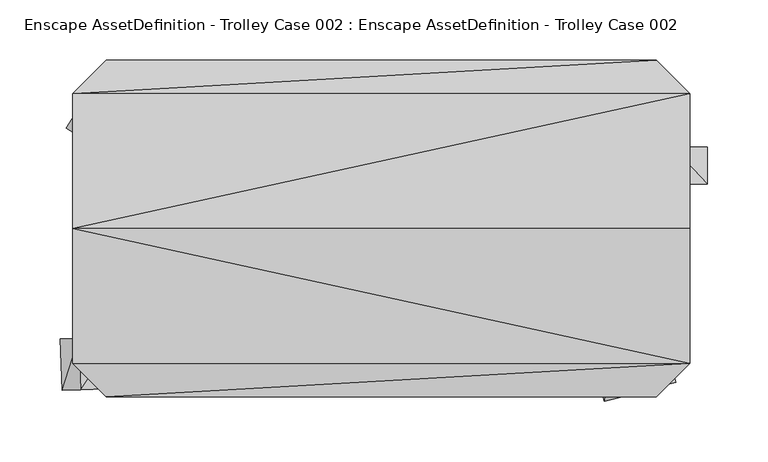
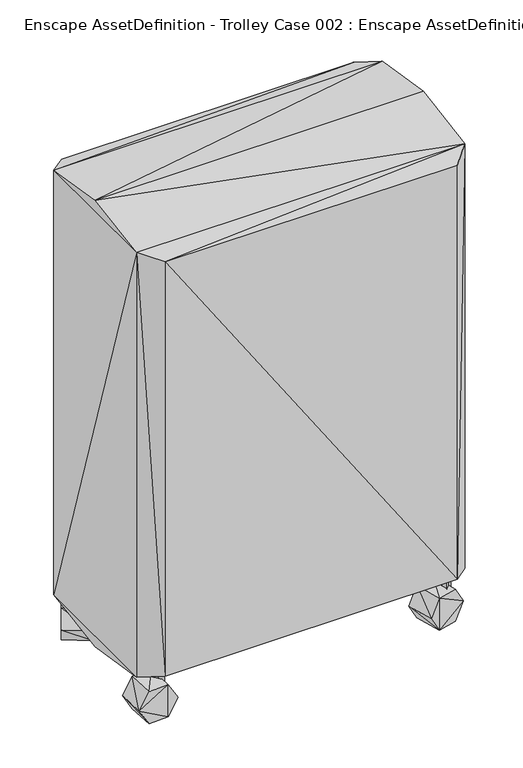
"""IFC4 building model written with IfcOpenShell, lengths in millimetres: geographic element geometry, Enscape AssetDefinition - Trolley Case 002 : Enscape AssetDefinition - Trolley Case 002."""

from ifc_helpers import new_model, si_unit, origin, place, context, project, spatial, faceted_brep, source, transform, mapped, element, save


def enscape_assetdefinition_trolley_case_002_enscape_225e11ec(model_context):
    return source(origin(), model_context, "Body", "Brep", [
        faceted_brep([(-260.2963448, -11.5327239, 784.7432494), (252.7648509, -123.6567572, 766.7090893), (252.7648509, -11.5327239, 784.7432494), (-260.2963448, -123.6567572, 766.7090893), (252.7648509, 100.5913168, 766.7090893), (-232.4115932, -151.5415162, 757.9645514), (224.8811126, -151.5415162, 757.9645514), (252.7648509, 100.5913168, 65.5341148), (252.7648509, -123.6567572, 65.5341148), (224.8811126, -151.5415162, 74.2796585), (-260.2963448, 100.5913168, 766.7090893), (224.8811126, 128.4760535, 757.9645514), (-232.4115932, 128.4760535, 757.9645514), (-260.2963448, 100.5913168, 65.5341148), (-232.4115932, 128.4760535, 74.2796585), (224.8811126, 128.4760535, 74.2796585), (-260.2963448, -123.6567572, 65.5341148), (-260.2963448, -11.5327239, 47.4999808), (252.7648509, -11.5327239, 47.4999808), (-232.4115932, -151.5415162, 74.2796585)], [[[0, 1, 2]], [[1, 0, 3]], [[1, 4, 2]], [[1, 5, 6]], [[5, 1, 3]], [[7, 1, 8]], [[1, 7, 4]], [[9, 1, 6]], [[1, 9, 8]], [[4, 0, 2]], [[0, 4, 10]], [[10, 3, 0]], [[10, 11, 12]], [[11, 10, 4]], [[13, 3, 10]], [[12, 13, 10]], [[14, 11, 15]], [[11, 14, 12]], [[4, 15, 11]], [[13, 12, 14]], [[15, 13, 14]], [[3, 13, 16]], [[7, 17, 13]], [[17, 16, 13]], [[13, 15, 7]], [[15, 4, 7]], [[17, 7, 18]], [[18, 7, 8]], [[17, 8, 16]], [[8, 17, 18]], [[19, 3, 16]], [[8, 19, 16]], [[3, 19, 5]], [[19, 8, 9]], [[9, 5, 19]], [[5, 9, 6]]]),
        faceted_brep([(238.4549677, 25.4976004, 509.3889832), (238.4549677, 56.1255179, 315.1767552), (238.4549677, 25.4976004, 315.1767552), (238.4549677, 56.1255179, 509.3889832), (267.2977746, 56.1255179, 340.1133418), (267.2977746, 56.1255179, 492.082864), (267.2977746, 25.4976004, 340.1133418), (267.2977746, 25.4976004, 492.082864)], [[[0, 1, 2]], [[1, 0, 3]], [[4, 2, 1]], [[1, 5, 4]], [[5, 1, 3]], [[6, 0, 2]], [[2, 4, 6]], [[0, 6, 7]], [[7, 3, 0]], [[3, 7, 5]], [[7, 4, 5]], [[4, 7, 6]]]),
        faceted_brep([(185.3856295, -109.9658981, 52.5062941), (185.3856295, -109.9658981, -0.7660481), (170.5307066, -113.9461473, 25.8706231), (229.9484313, -98.0251506, 25.8706231), (215.0945067, -102.0053998, -0.7660481), (196.4523196, -151.2674987, -0.7660481), (226.1611968, -143.3069855, -0.7660481), (181.59841, -155.247733, 25.8696247), (215.0945067, -102.0053998, 52.5062941), (196.4523196, -151.2674987, 52.5062941), (241.0161197, -139.3267363, 25.8696247), (226.1611968, -143.3069855, 52.5062941)], [[[0, 1, 2]], [[3, 1, 0]], [[3, 4, 1]], [[5, 2, 1]], [[6, 1, 4]], [[1, 6, 5]], [[7, 0, 2]], [[2, 5, 7]], [[3, 0, 8]], [[9, 8, 0]], [[0, 7, 9]], [[5, 9, 7]], [[5, 10, 9]], [[5, 6, 10]], [[4, 10, 6]], [[10, 4, 3]], [[11, 3, 8]], [[3, 11, 10]], [[8, 9, 11]], [[9, 10, 11]]]),
        faceted_brep([(211.6882801, -119.3074882, 84.0582773), (230.0854325, -124.2377982, 19.5252243), (211.6882801, -119.3074882, 19.5252243), (230.0854325, -124.2377982, 84.0582773), (216.6175991, -137.705639, 19.5252243), (219.4637656, -127.0839721, 19.5252243), (216.6175991, -137.705639, 84.0582773)], [[[0, 1, 2]], [[1, 0, 3]], [[3, 4, 1]], [[5, 2, 1]], [[5, 1, 4]], [[6, 2, 4]], [[2, 6, 0]], [[5, 4, 2]], [[0, 6, 3]], [[4, 3, 6]]]),
        faceted_brep([(182.1914315, 96.931085, 52.5062941), (182.1914315, 96.931085, -0.7660481), (169.8846668, 87.7095014, 25.8706231), (219.1117406, 124.5968193, 25.8706231), (206.804961, 115.3752431, -0.7660481), (208.1940621, 62.2289032, -0.7660481), (232.8076214, 80.6720629, -0.7660481), (195.8872825, 53.0073233, 25.8696247), (206.804961, 115.3752431, 52.5062941), (208.1940621, 62.2289032, 52.5062941), (245.1143712, 89.8936391, 25.8696247), (232.8076214, 80.6720629, 52.5062941)], [[[0, 1, 2]], [[3, 1, 0]], [[3, 4, 1]], [[5, 2, 1]], [[6, 1, 4]], [[1, 6, 5]], [[7, 0, 2]], [[2, 5, 7]], [[3, 0, 8]], [[9, 8, 0]], [[0, 7, 9]], [[5, 9, 7]], [[5, 10, 9]], [[5, 6, 10]], [[4, 10, 6]], [[10, 4, 3]], [[11, 3, 8]], [[3, 11, 10]], [[8, 9, 11]], [[9, 10, 11]]]),
        faceted_brep([(212.6693428, 104.9105823, 84.0582773), (231.5805405, 107.1807221, 19.5252243), (212.6693428, 104.9105823, 19.5252243), (231.5805405, 107.1807221, 84.0582773), (224.091053, 89.6686241, 19.5252243), (222.7799743, 100.5873084, 19.5252243), (224.091053, 89.6686241, 84.0582773)], [[[0, 1, 2]], [[1, 0, 3]], [[3, 4, 1]], [[5, 2, 1]], [[5, 1, 4]], [[6, 2, 4]], [[2, 6, 0]], [[5, 4, 2]], [[0, 6, 3]], [[4, 3, 6]]]),
        faceted_brep([(-223.1329978, -144.5010602, 52.5062941), (-223.1329978, -144.5010602, -0.7660481), (-207.7650279, -143.9520419, 25.8706231), (-269.2399025, -146.148175, 25.8706231), (-253.8709342, -145.5991417, -0.7660481), (-224.6600986, -101.7693877, -0.7660481), (-255.398035, -102.8684527, -0.7660481), (-209.2921287, -101.220347, 25.8696247), (-253.8709342, -145.5991417, 52.5062941), (-224.6600986, -101.7693877, 52.5062941), (-270.76599, -103.417486, 25.8696247), (-255.398035, -102.8684527, 52.5062941)], [[[0, 1, 2]], [[3, 1, 0]], [[3, 4, 1]], [[5, 2, 1]], [[6, 1, 4]], [[1, 6, 5]], [[7, 0, 2]], [[2, 5, 7]], [[3, 0, 8]], [[9, 8, 0]], [[0, 7, 9]], [[5, 9, 7]], [[5, 10, 9]], [[5, 6, 10]], [[4, 10, 6]], [[10, 4, 3]], [[11, 3, 8]], [[3, 11, 10]], [[8, 9, 11]], [[9, 10, 11]]]),
        faceted_brep([(-233.4876508, -117.4043715, 84.0582773), (-214.6284729, -114.7342026, 19.5252243), (-233.4876508, -117.4043715, 19.5252243), (-214.6284729, -114.7342026, 84.0582773), (-221.7459232, -132.4013025, 19.5252243), (-223.2870013, -121.5136275, 19.5252243), (-221.7459232, -132.4013025, 84.0582773)], [[[0, 1, 2]], [[1, 0, 3]], [[3, 4, 1]], [[5, 2, 1]], [[5, 1, 4]], [[6, 2, 4]], [[2, 6, 0]], [[5, 4, 2]], [[0, 6, 3]], [[4, 3, 6]]]),
        faceted_brep([(-204.947859, 88.563554, 52.5062941), (-204.947859, 88.563554, -0.7660481), (-196.7843473, 101.5963778, 25.8706231), (-229.4383943, 49.4651012, 25.8706231), (-221.2748826, 62.4979213, -0.7660481), (-241.1841303, 111.2609804, -0.7660481), (-257.5111687, 85.196346, -0.7660481), (-233.0206186, 124.2938042, 25.8696247), (-221.2748826, 62.4979213, 52.5062941), (-241.1841303, 111.2609804, 52.5062941), (-265.6746805, 72.1635297, 25.8696247), (-257.5111687, 85.196346, 52.5062941)], [[[0, 1, 2]], [[3, 1, 0]], [[3, 4, 1]], [[5, 2, 1]], [[6, 1, 4]], [[1, 6, 5]], [[7, 0, 2]], [[2, 5, 7]], [[3, 0, 8]], [[9, 8, 0]], [[0, 7, 9]], [[5, 9, 7]], [[5, 10, 9]], [[5, 6, 10]], [[4, 10, 6]], [[10, 4, 3]], [[11, 3, 8]], [[3, 11, 10]], [[8, 9, 11]], [[9, 10, 11]]]),
        faceted_brep([(-229.3533981, 90.606682, 84.0582773), (-226.2091786, 109.392859, 19.5252243), (-229.3533981, 90.606682, 19.5252243), (-226.2091786, 109.392859, 84.0582773), (-211.513266, 97.2771049, 19.5252243), (-222.3589569, 99.0922153, 19.5252243), (-211.513266, 97.2771049, 84.0582773)], [[[0, 1, 2]], [[1, 0, 3]], [[3, 4, 1]], [[5, 2, 1]], [[5, 1, 4]], [[6, 2, 4]], [[2, 6, 0]], [[5, 4, 2]], [[0, 6, 3]], [[4, 3, 6]]]),
    ])


if __name__ == "__main__":
    model = new_model("IFC4")
    model_context = context("Model", 3, world=origin())
    ifc_project = project(units=[si_unit("LENGTHUNIT", "METRE", prefix="MILLI")], contexts=[model_context])
    site = spatial("IfcSite", under=ifc_project)
    building = spatial("IfcBuilding", under=site)
    placement = place(None, origin())
    enscape_assetdefinition_trolley_case_002_enscape_shape = enscape_assetdefinition_trolley_case_002_enscape_225e11ec(model_context)
    element("IfcGeographicElement", 1, ObjectType="Enscape AssetDefinition - Trolley Case 002 : Enscape AssetDefinition - Trolley Case 002", at=placement, inside=building, context=model_context, shape_type="MappedRepresentation", body=[
        mapped(enscape_assetdefinition_trolley_case_002_enscape_shape, transform((0.0, 0.0, 0.0), x_axis=(1.0, 0.0, 0.0), y_axis=(0.0, 1.0, 0.0), z_axis=(0.0, 0.0, 1.0))),
    ])
    save(model, "model.ifc")
